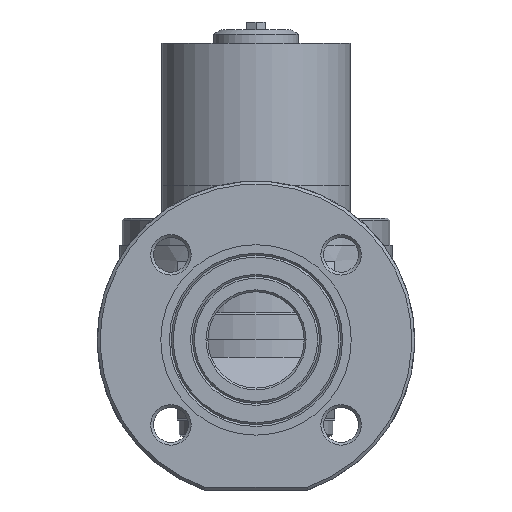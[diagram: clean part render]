
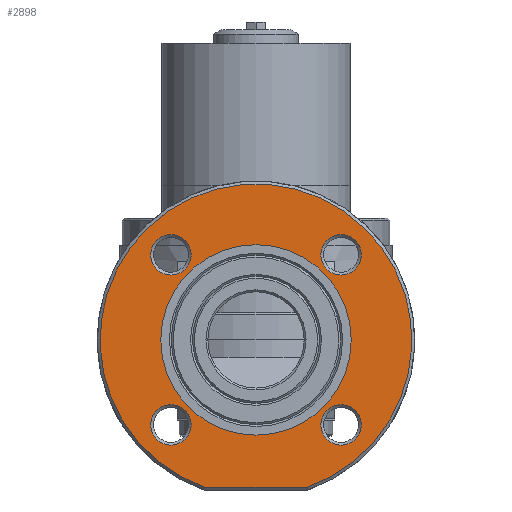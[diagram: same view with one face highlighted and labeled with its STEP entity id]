
A CAD part, front view. The second image highlights one B-rep face of the part: STEP entity #2898.
In plain terms, the highlighted planar face has unit normal (0, -1, 0).
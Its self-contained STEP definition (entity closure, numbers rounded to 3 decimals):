
#2898 = ADVANCED_FACE( '', ( #4415, #4416, #4417, #4418, #4419, #4420 ), #4421, .F. );
#4415 = FACE_OUTER_BOUND( '', #6615, .T. );
#4416 = FACE_BOUND( '', #6616, .T. );
#4417 = FACE_BOUND( '', #6617, .T. );
#4418 = FACE_BOUND( '', #6618, .T. );
#4419 = FACE_BOUND( '', #6619, .T. );
#4420 = FACE_BOUND( '', #6620, .T. );
#4421 = PLANE( '', #6621 );
#6615 = EDGE_LOOP( '', ( #11540, #11541 ) );
#6616 = EDGE_LOOP( '', ( #11542 ) );
#6617 = EDGE_LOOP( '', ( #11543 ) );
#6618 = EDGE_LOOP( '', ( #11544 ) );
#6619 = EDGE_LOOP( '', ( #11545 ) );
#6620 = EDGE_LOOP( '', ( #11546 ) );
#6621 = AXIS2_PLACEMENT_3D( '', #11547, #11548, #11549 );
#11540 = ORIENTED_EDGE( '', *, *, #14781, .T. );
#11541 = ORIENTED_EDGE( '', *, *, #14764, .T. );
#11542 = ORIENTED_EDGE( '', *, *, #14782, .T. );
#11543 = ORIENTED_EDGE( '', *, *, #14783, .T. );
#11544 = ORIENTED_EDGE( '', *, *, #14784, .T. );
#11545 = ORIENTED_EDGE( '', *, *, #14785, .T. );
#11546 = ORIENTED_EDGE( '', *, *, #14777, .F. );
#11547 = CARTESIAN_POINT( '', ( 0., -113., 49.5 ) );
#11548 = DIRECTION( '', ( 0., 1., 0. ) );
#11549 = DIRECTION( '', ( -1., 0., 0. ) );
#14764 = EDGE_CURVE( '', #16507, #16509, #16511, .T. );
#14777 = EDGE_CURVE( '', #16536, #16536, #16537, .T. );
#14781 = EDGE_CURVE( '', #16509, #16507, #16543, .F. );
#14782 = EDGE_CURVE( '', #16544, #16544, #16545, .T. );
#14783 = EDGE_CURVE( '', #16546, #16546, #16547, .T. );
#14784 = EDGE_CURVE( '', #16548, #16548, #16549, .T. );
#14785 = EDGE_CURVE( '', #16550, #16550, #16551, .T. );
#16507 = VERTEX_POINT( '', #20404 );
#16509 = VERTEX_POINT( '', #20409 );
#16511 = LINE( '', #20414, #20415 );
#16536 = VERTEX_POINT( '', #20441 );
#16537 = CIRCLE( '', #20442, 49.5 );
#16543 = CIRCLE( '', #20448, 81. );
#16544 = VERTEX_POINT( '', #20449 );
#16545 = CIRCLE( '', #20450, 10.5 );
#16546 = VERTEX_POINT( '', #20451 );
#16547 = CIRCLE( '', #20452, 10.5 );
#16548 = VERTEX_POINT( '', #20453 );
#16549 = CIRCLE( '', #20454, 10.5 );
#16550 = VERTEX_POINT( '', #20455 );
#16551 = CIRCLE( '', #20456, 10.5 );
#20404 = CARTESIAN_POINT( '', ( -26.622, -113., -76.5 ) );
#20409 = CARTESIAN_POINT( '', ( 26.622, -113., -76.5 ) );
#20414 = CARTESIAN_POINT( '', ( 26.875, -113., -76.5 ) );
#20415 = VECTOR( '', #23895, 1000. );
#20441 = CARTESIAN_POINT( '', ( 49.5, -113., 0. ) );
#20442 = AXIS2_PLACEMENT_3D( '', #23930, #23931, #23932 );
#20448 = AXIS2_PLACEMENT_3D( '', #23942, #23943, #23944 );
#20449 = CARTESIAN_POINT( '', ( -54.694, -113., -44.194 ) );
#20450 = AXIS2_PLACEMENT_3D( '', #23945, #23946, #23947 );
#20451 = CARTESIAN_POINT( '', ( 33.694, -113., -44.194 ) );
#20452 = AXIS2_PLACEMENT_3D( '', #23948, #23949, #23950 );
#20453 = CARTESIAN_POINT( '', ( 33.694, -113., 44.194 ) );
#20454 = AXIS2_PLACEMENT_3D( '', #23951, #23952, #23953 );
#20455 = CARTESIAN_POINT( '', ( -54.694, -113., 44.194 ) );
#20456 = AXIS2_PLACEMENT_3D( '', #23954, #23955, #23956 );
#23895 = DIRECTION( '', ( 1., 0., 0. ) );
#23930 = CARTESIAN_POINT( '', ( 0., -113., 0. ) );
#23931 = DIRECTION( '', ( 0., -1., 0. ) );
#23932 = DIRECTION( '', ( 1., 0., 0. ) );
#23942 = CARTESIAN_POINT( '', ( 0., -113., 0. ) );
#23943 = DIRECTION( '', ( 0., 1., 0. ) );
#23944 = DIRECTION( '', ( -1., 0., 0. ) );
#23945 = CARTESIAN_POINT( '', ( -44.194, -113., -44.194 ) );
#23946 = DIRECTION( '', ( 0., 1., 0. ) );
#23947 = DIRECTION( '', ( -1., 0., 0. ) );
#23948 = CARTESIAN_POINT( '', ( 44.194, -113., -44.194 ) );
#23949 = DIRECTION( '', ( 0., 1., 0. ) );
#23950 = DIRECTION( '', ( -1., 0., 0. ) );
#23951 = CARTESIAN_POINT( '', ( 44.194, -113., 44.194 ) );
#23952 = DIRECTION( '', ( 0., 1., 0. ) );
#23953 = DIRECTION( '', ( -1., 0., 0. ) );
#23954 = CARTESIAN_POINT( '', ( -44.194, -113., 44.194 ) );
#23955 = DIRECTION( '', ( 0., 1., 0. ) );
#23956 = DIRECTION( '', ( -1., 0., 0. ) );
